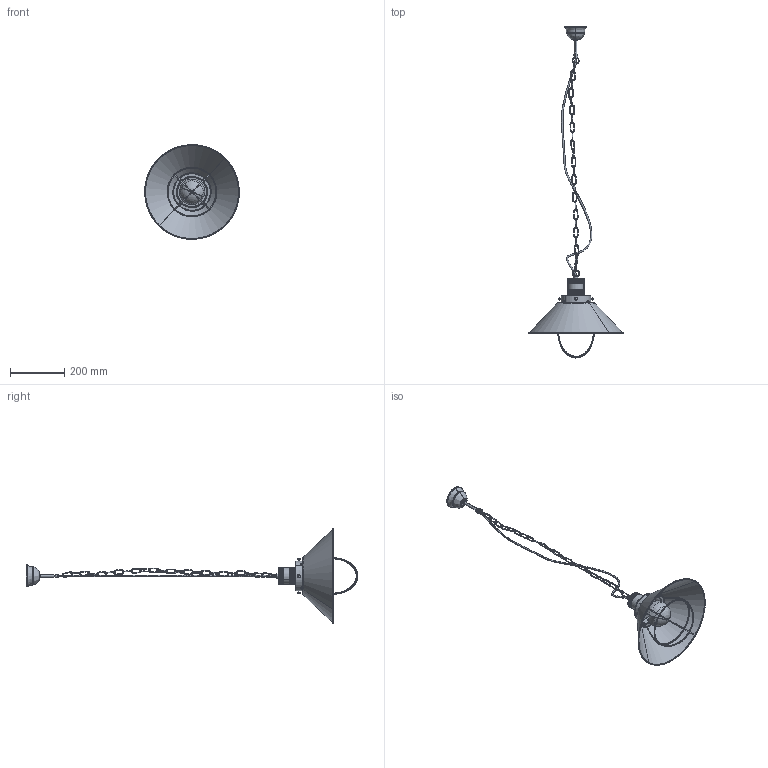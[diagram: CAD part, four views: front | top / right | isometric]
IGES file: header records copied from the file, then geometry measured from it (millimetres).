
Start section: SolidWorks IGES file using analytic representation for surfaces
Global section: file name: E:\3D lampy\Garret\Garret zwis\Garret zwis_du¿y klosz.IGS; native system: SolidWorks 2016; preprocessor: SolidWorks 2016; author: Asia; date: 160922.132115; units: millimetre
Bounding box: 349.04 x 1223.77 x 348.94 mm (x, y, z)
Surface area: 474343.9 mm2 (no closed solid volume)
Topology: 0 solids, 0 shells, 1236 faces, 13832 edges, 13803 vertices
Faces by surface type: bspline 818, revolution 418
